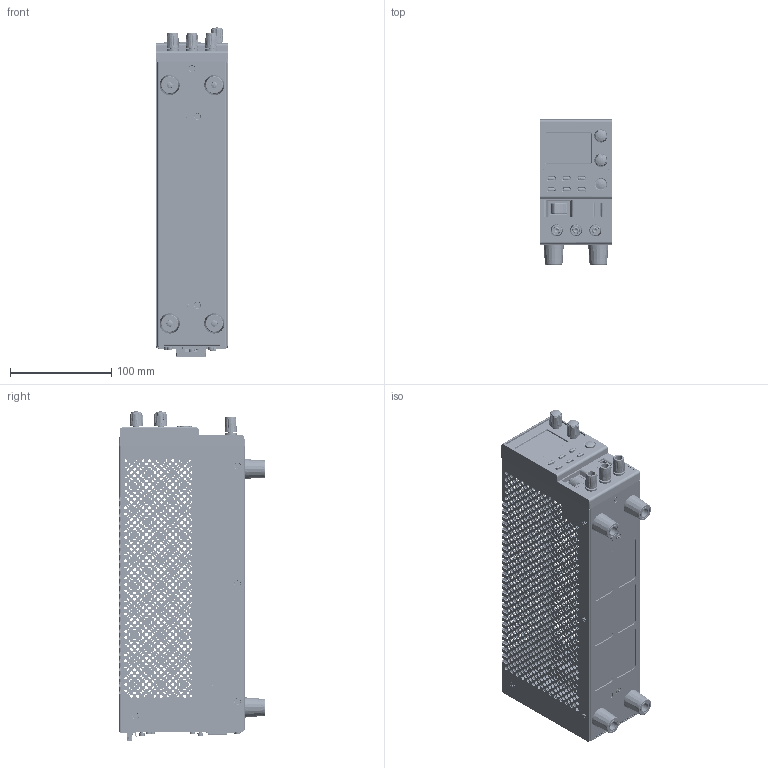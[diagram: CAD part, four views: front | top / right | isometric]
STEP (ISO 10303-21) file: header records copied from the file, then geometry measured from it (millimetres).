
FILE_DESCRIPTION((''),'2;1');
FILE_NAME('PFR-100_ASM_ASM_ASM','2018-06-06T',('rd407'),(''),'PRO/ENGINEER BY PARAMETRIC TECHNOLOGY CORPORATION, 2010160','PRO/ENGINEER BY PARAMETRIC TECHNOLOGY CORPORATION, 2010160','');
FILE_SCHEMA(('CONFIG_CONTROL_DESIGN'));
Length unit declared in the file: millimetre
Products named in the file (53): 63FP-AG112901_136; 63FP-AG112901_ASM_48_ASM; ENCODE_SW_L25-ALPS_8; PSW-F-PCB_ASM_ASM_1_ASM; 51SW-804002A1_122; 63KE-XG2001A1_268; PFR-100-SW-POWER_1; BODY_13; SHIFT_15; KNOB_12; KNOB_ASM_8_ASM; BINDING_ASM_15_ASM; 5005-130G0101_32; PFR-100-F-1_ASM_ASM_165_ASM; 62FR-100FP101_ASM_37_ASM; PFR-100-FP-1_ASM_ASM_46_ASM; 5203-AW005001_ASM_42_ASM; 3P-AC-INLET_3; ME030-381-9P_7; ME030-381-10P_3; PFR-100-POWER-PCB_ASM_ASM_311_ASM; 62FR-100HP101_167; 62FR-100HP101_ASM_45_ASM; USB2_7; 62SW-080HP501_20; MDSM-25PIN_10; RJ-45_4445-2000101_16; RJ-45_16; USB_7; PFR-100-CPU-PCB_ASM_ASM_162_ASM; 62FR-100LO101_211; 62FR-100LO101-FILTER_19; 62FR-100LO101_ASM_56_ASM; 57FC-30B01101-GL-20-B_8; BMS-W-3X12_11; FMS-3X6_8; PFR-100-LO-1_ASM_ASM_250_ASM; FMS-3X5_8; 62FR-100RP201_214; 62FR-100RP201_ASM_50_ASM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
Assembly tree (86 placements, depth 6):
  PFR-100_ASM_ASM_ASM
    PFR-100_ASM_ASM_1248_ASM
      PFR-100-F-1_ASM_ASM_165_ASM
        63FP-AG112901_ASM_48_ASM
          63FP-AG112901_136
        PSW-F-PCB_ASM_ASM_1_ASM
          ENCODE_SW_L25-ALPS_8  x2
        51SW-804002A1_122
        63KE-XG2001A1_268
        PFR-100-SW-POWER_1
        BINDING_ASM_15_ASM  x3
          BODY_13
          SHIFT_15
          KNOB_ASM_8_ASM
            KNOB_12
        5005-130G0101_32  x2
      PFR-100-FP-1_ASM_ASM_46_ASM
        62FR-100FP101_ASM_37_ASM
      PFR-100-LO-1_ASM_ASM_250_ASM
        PFR-100-POWER-PCB_ASM_ASM_311_ASM
          5203-AW005001_ASM_42_ASM
          3P-AC-INLET_3
          ME030-381-9P_7
          ME030-381-10P_3
        62FR-100HP101_ASM_45_ASM  x2
          62FR-100HP101_167
        PFR-100-CPU-PCB_ASM_ASM_162_ASM
          USB2_7
          62SW-080HP501_20
          MDSM-25PIN_10
          RJ-45_4445-2000101_16
          RJ-45_16
          USB_7
        62FR-100LO101_ASM_56_ASM
          62FR-100LO101_211
          62FR-100LO101-FILTER_19
        57FC-30B01101-GL-20-B_8  x4
        BMS-W-3X12_11  x4
        FMS-3X6_8  x2
      FMS-3X5_8  x7
      PFR-100-RP-1_ASM_ASM_49_ASM
        62FR-100RP201_ASM_50_ASM
          62FR-100RP201_214
      PFR-100-CPU-CONTROL_ASM_ASM_123_ASM
        DOUBLE-ROW-SOCKETS-20P_ASM_ASM__ASM
          BOX-TYPE-PLUGS-20PIN_5
          DOUBLE-ROW-SOCKETS-20P_5_ASM
            MANIFOLD_SOLID_BREP_248738
            MANIFOLD_SOLID_BREP_258381
      62FR-100UP101_ASM_31_ASM
        62FR-100UP101_174
      FMS-3X6_8  x9
      62FR-100SC101_ASM_15_ASM
      PMS-W-3X8_9  x8
Bounding box: 71 x 143.8 x 324.5 mm (x, y, z)
Volume: 193603.8 mm3; surface area: 350651.7 mm2
Topology: 69 solids, 69 shells, 11646 faces, 32268 edges, 21019 vertices
Faces by surface type: cylinder 6302, plane 4346, cone 633, bspline 131, torus 112, sphere 88, extrusion 34
Entity records: 351995 total; most frequent: CARTESIAN_POINT 69499, DIRECTION 61024, ORIENTED_EDGE 56476, EDGE_CURVE 28238, AXIS2_PLACEMENT_3D 23155, VERTEX_POINT 18426, EDGE_LOOP 15492, VECTOR 14714
